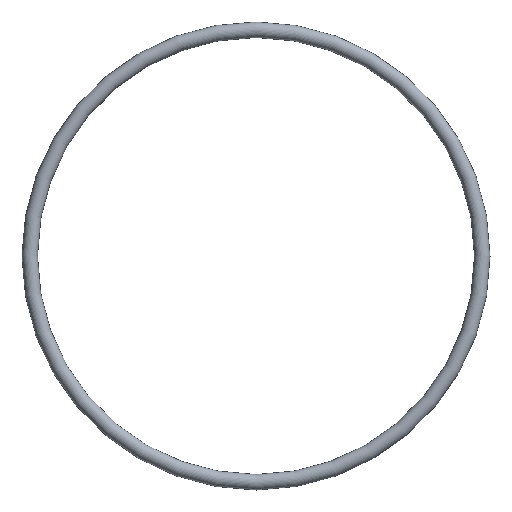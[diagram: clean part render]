
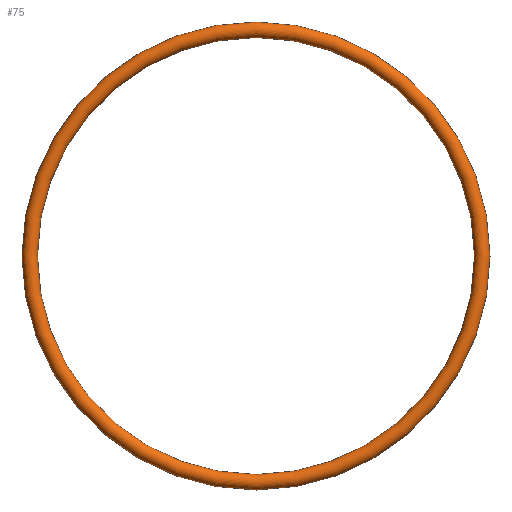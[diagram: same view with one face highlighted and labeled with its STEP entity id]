
A CAD part, front view. The second image highlights one B-rep face of the part: STEP entity #75.
In plain terms, the highlighted toroidal (fillet/blend) face has major radius 43.75 mm and minor radius 1.5 mm.
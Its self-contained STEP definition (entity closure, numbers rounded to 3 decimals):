
#75 = ADVANCED_FACE( '', ( #77 ), #78, .T. );
#77 = FACE_BOUND( '', #79, .T. );
#78 = TOROIDAL_SURFACE( '', #80, 43.75, 1.5 );
#79 = VERTEX_LOOP( '', #81 );
#80 = AXIS2_PLACEMENT_3D( '', #82, #83, #84 );
#81 = VERTEX_POINT( '', #85 );
#82 = CARTESIAN_POINT( '', ( 0., 0., 0. ) );
#83 = DIRECTION( '', ( 0., -1., 0. ) );
#84 = DIRECTION( '', ( 0., 0., -1. ) );
#85 = CARTESIAN_POINT( '', ( 0., 0., -45.25 ) );
